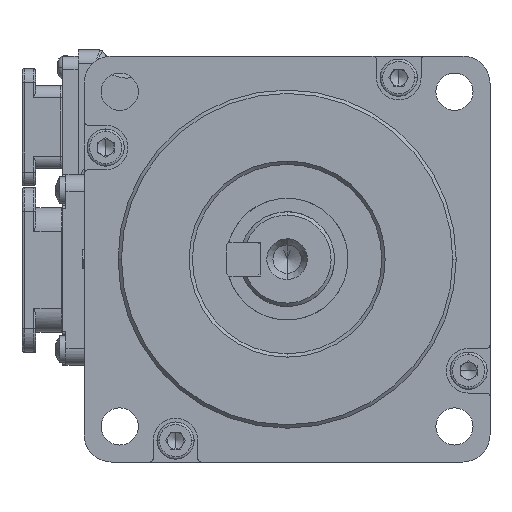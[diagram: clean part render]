
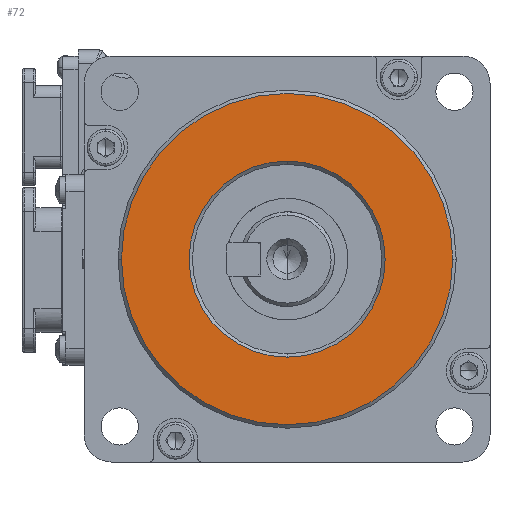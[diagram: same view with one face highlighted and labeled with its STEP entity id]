
A CAD part, left-side view. The second image highlights one B-rep face of the part: STEP entity #72.
In plain terms, the highlighted planar face has unit normal (-1, 0, 0).
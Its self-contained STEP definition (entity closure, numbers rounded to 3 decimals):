
#72 = ADVANCED_FACE ( 'NONE', ( #9482, #59414 ), #1934, .F. ) ;
#511 = DIRECTION ( 'NONE',  ( -1., 0., 0. ) ) ;
#1934 = PLANE ( 'NONE',  #60402 ) ;
#6159 = ORIENTED_EDGE ( 'NONE', *, *, #8035, .F. ) ;
#8035 = EDGE_CURVE ( 'NONE', #79559, #78785, #49331, .T. ) ;
#9482 = FACE_OUTER_BOUND ( 'NONE', #47244, .T. ) ;
#9764 = EDGE_LOOP ( 'NONE', ( #6159, #31233 ) ) ;
#11750 = ORIENTED_EDGE ( 'NONE', *, *, #83428, .F. ) ;
#15618 = EDGE_CURVE ( 'NONE', #62521, #20488, #41775, .T. ) ;
#19277 = AXIS2_PLACEMENT_3D ( 'NONE', #44515, #86184, #45598 ) ;
#20488 = VERTEX_POINT ( 'NONE', #49568 ) ;
#23828 = CIRCLE ( 'NONE', #32496, 24.5 ) ;
#26269 = CIRCLE ( 'NONE', #19277, 14.5 ) ;
#31233 = ORIENTED_EDGE ( 'NONE', *, *, #60437, .F. ) ;
#32496 = AXIS2_PLACEMENT_3D ( 'NONE', #55578, #98805, #96691 ) ;
#33357 = CARTESIAN_POINT ( 'NONE',  ( -58., -9.238, 129.079 ) ) ;
#41775 = CIRCLE ( 'NONE', #53943, 24.5 ) ;
#42542 = CARTESIAN_POINT ( 'NONE',  ( -58., -9.238, 143.579 ) ) ;
#43207 = CARTESIAN_POINT ( 'NONE',  ( -58., -9.238, 129.079 ) ) ;
#44273 = DIRECTION ( 'NONE',  ( 0., 1., 0. ) ) ;
#44515 = CARTESIAN_POINT ( 'NONE',  ( -58., -9.238, 129.079 ) ) ;
#45598 = DIRECTION ( 'NONE',  ( 0., 0., 1. ) ) ;
#47244 = EDGE_LOOP ( 'NONE', ( #11750, #82167 ) ) ;
#49331 = CIRCLE ( 'NONE', #90804, 14.5 ) ;
#49568 = CARTESIAN_POINT ( 'NONE',  ( -58., 15.262, 129.079 ) ) ;
#50741 = DIRECTION ( 'NONE',  ( 1., 0., 0. ) ) ;
#53943 = AXIS2_PLACEMENT_3D ( 'NONE', #43207, #85429, #44273 ) ;
#55578 = CARTESIAN_POINT ( 'NONE',  ( -58., -9.238, 129.079 ) ) ;
#57508 = CARTESIAN_POINT ( 'NONE',  ( -58., -33.738, 129.079 ) ) ;
#58508 = CARTESIAN_POINT ( 'NONE',  ( -58., -9.238, 129.079 ) ) ;
#59414 = FACE_BOUND ( 'NONE', #9764, .T. ) ;
#60402 = AXIS2_PLACEMENT_3D ( 'NONE', #33357, #50741, #99445 ) ;
#60437 = EDGE_CURVE ( 'NONE', #78785, #79559, #26269, .T. ) ;
#62521 = VERTEX_POINT ( 'NONE', #57508 ) ;
#74190 = DIRECTION ( 'NONE',  ( 0., 0., 1. ) ) ;
#78785 = VERTEX_POINT ( 'NONE', #103450 ) ;
#79559 = VERTEX_POINT ( 'NONE', #42542 ) ;
#82167 = ORIENTED_EDGE ( 'NONE', *, *, #15618, .F. ) ;
#83428 = EDGE_CURVE ( 'NONE', #20488, #62521, #23828, .T. ) ;
#85429 = DIRECTION ( 'NONE',  ( 1., 0., 0. ) ) ;
#86184 = DIRECTION ( 'NONE',  ( -1., 0., 0. ) ) ;
#90804 = AXIS2_PLACEMENT_3D ( 'NONE', #58508, #511, #74190 ) ;
#96691 = DIRECTION ( 'NONE',  ( 0., 1., 0. ) ) ;
#98805 = DIRECTION ( 'NONE',  ( 1., 0., 0. ) ) ;
#99445 = DIRECTION ( 'NONE',  ( 0., 0., -1. ) ) ;
#103450 = CARTESIAN_POINT ( 'NONE',  ( -58., -9.238, 114.579 ) ) ;
